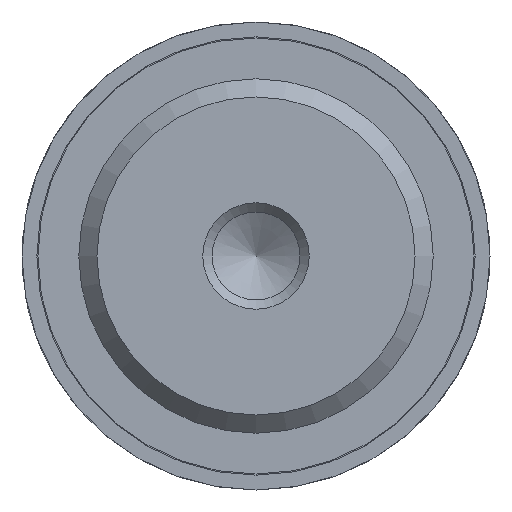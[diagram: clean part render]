
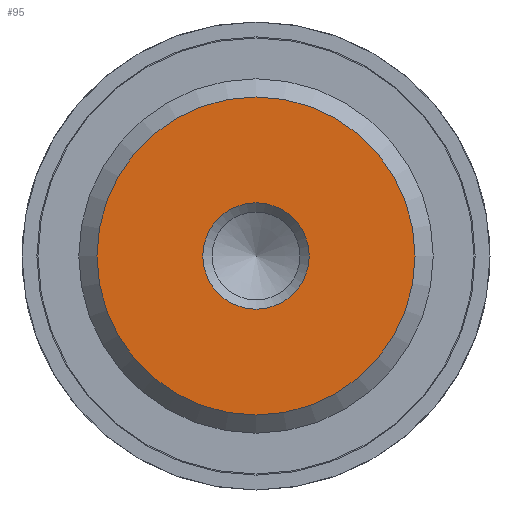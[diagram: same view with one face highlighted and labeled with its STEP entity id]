
A CAD part, front view. The second image highlights one B-rep face of the part: STEP entity #95.
In plain terms, the highlighted planar face has unit normal (0, -1, 0).
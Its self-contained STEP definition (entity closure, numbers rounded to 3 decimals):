
#95 = ADVANCED_FACE( '', ( #164, #165 ), #166, .F. );
#164 = FACE_BOUND( '', #253, .T. );
#165 = FACE_OUTER_BOUND( '', #254, .T. );
#166 = PLANE( '', #255 );
#253 = EDGE_LOOP( '', ( #418 ) );
#254 = EDGE_LOOP( '', ( #419 ) );
#255 = AXIS2_PLACEMENT_3D( '', #420, #421, #422 );
#418 = ORIENTED_EDGE( '', *, *, #528, .F. );
#419 = ORIENTED_EDGE( '', *, *, #529, .T. );
#420 = CARTESIAN_POINT( '', ( 7.475, 0., 0. ) );
#421 = DIRECTION( '', ( 0., 1., 0. ) );
#422 = DIRECTION( '', ( 0., 0., 1. ) );
#528 = EDGE_CURVE( '', #612, #612, #613, .T. );
#529 = EDGE_CURVE( '', #614, #614, #615, .T. );
#612 = VERTEX_POINT( '', #882 );
#613 = CIRCLE( '', #883, 2.5 );
#614 = VERTEX_POINT( '', #884 );
#615 = CIRCLE( '', #885, 7.475 );
#882 = CARTESIAN_POINT( '', ( 2.5, 0., 0. ) );
#883 = AXIS2_PLACEMENT_3D( '', #982, #983, #984 );
#884 = CARTESIAN_POINT( '', ( 0., 0., -7.475 ) );
#885 = AXIS2_PLACEMENT_3D( '', #985, #986, #987 );
#982 = CARTESIAN_POINT( '', ( 0., 0., 0. ) );
#983 = DIRECTION( '', ( 0., -1., 0. ) );
#984 = DIRECTION( '', ( 1., 0., 0. ) );
#985 = CARTESIAN_POINT( '', ( 0., 0., 0. ) );
#986 = DIRECTION( '', ( 0., -1., 0. ) );
#987 = DIRECTION( '', ( 0., 0., -1. ) );
